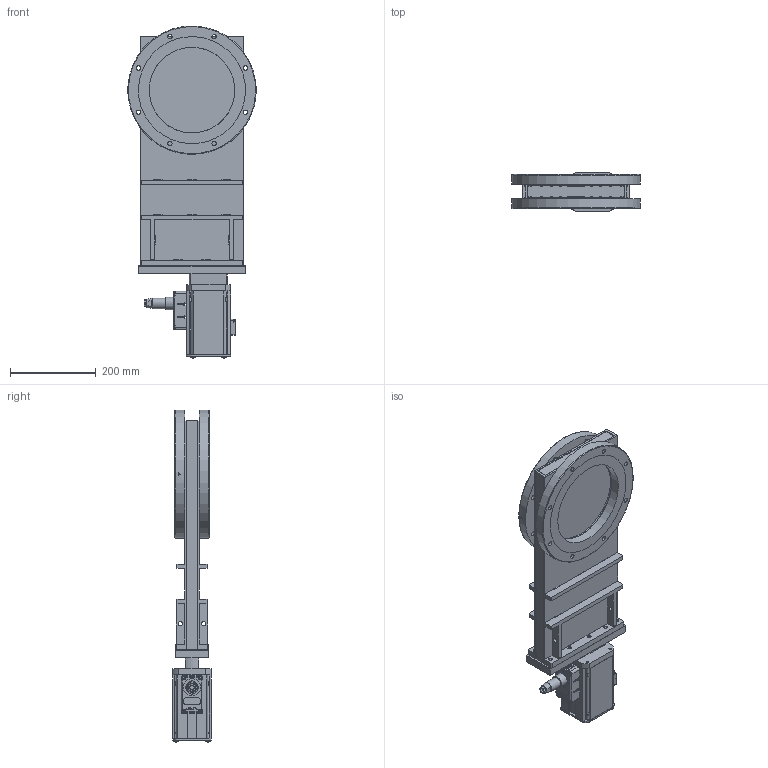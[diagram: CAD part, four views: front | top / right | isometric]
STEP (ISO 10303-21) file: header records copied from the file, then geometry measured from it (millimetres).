
FILE_DESCRIPTION(/* description */ (''),/* implementation_level */ '2;1');
FILE_NAME(/* name */ '1001302212_203.stp',/* time_stamp */ '2017-07-11T14:44:24+02:00',/* author */ (''),/* organization */ (''),/* preprocessor_version */ 'ST-DEVELOPER v15',/* originating_system */ 'SIEMENS PLM Software NX 9.0',/* authorisation */ '');
FILE_SCHEMA (('AP203_CONFIGURATION_CONTROLLED_3D_DESIGN_OF_MECHANICAL_PARTS_AND_ASSEMBLIES_MIM_LF { 1 0 10303 403 2 1 2}'));
Length unit declared in the file: millimetre
Products named in the file (44): n-6197-034.1; n-7100-007.2; 395614; 94220-01.1; 94224-01.2; 834044_36363ID; 834044_36385ID; 834044_36384ID; 834044_36383ID; 834046_36382ID; 834046_36381ID; 834046_36380ID; 834046_36379ID; 834014_36377ID; 834014_36376ID; 834006_36374ID; 834001_36372ID; 834001_36371ID; 833986_36369ID; 833986_36365ID; n-6024-526; N-7100-014_2.1; 94828-01.1; N-7100-012_3.1; N-6024-571.1; 85949-01.1; 67114-01.1; 78608-01.1_36387ID; 78608-01.1_36388ID; n-6099-511.1; 65313-01.1; 570870; 74628-01.3; n-6024-548.1; 70973-01.1; n-8504-002; 69130-01.2; 778871; 94827-r1.1; 395615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
Assembly tree (64 placements, depth 4):
  901844
    78607-r1
      834047
        833986_36365ID
        833986_36369ID
        834001_36371ID
        834001_36372ID
        834006_36374ID
        834014_36376ID
        834014_36377ID
        834046_36379ID
        834046_36380ID
        834046_36381ID
        834046_36382ID
        834044_36383ID
        834044_36384ID
        834044_36385ID
        834044_36363ID
      n-6099-511.1  x2
      78608-01.1_36388ID
      78608-01.1_36387ID
    94237-r1.2
      67114-01.1  x4
      85949-01.1
      N-6024-571.1  x4
      395615
        94224-01.2
        94220-01.1
        395614
        n-7100-007.2  x2
        n-6197-034.1
    778871  x10
    69130-01.2
    n-8504-002
    70973-01.1
    n-6024-548.1  x4
    74628-01.3
    570870
    65313-01.1
    94827-r1.1
      N-7100-012_3.1
      94828-01.1
      N-7100-014_2.1
      n-6024-526  x2
Bounding box: 300 x 90 x 775.7 mm (x, y, z)
Volume: 5128682.6 mm3; surface area: 1194362.4 mm2
Topology: 66 solids, 78 shells, 2571 faces, 6491 edges, 4264 vertices
Faces by surface type: plane 1647, cylinder 529, extrusion 195, torus 107, cone 75, sphere 10, bspline 8
Full cylindrical faces by diameter (mm): 0.7 x1, 0.725 x1, 1.5 x6, 1.66 x7, 2 x3, 2.125 x1, 2.5 x10, 2.65 x1, 3 x6, 3.3 x6, 4 x8, 4.05 x4, 4.2 x2, 4.35 x2, 4.4 x4, 4.45 x4, 4.5 x2, 4.625 x2, 5 x10, 5.4 x2, 5.8 x1, 5.9 x1, 6 x15, 6.6 x4, 6.85 x4, 7.05 x3, 7.5 x4, 7.982 x4, 8 x6, 8.36 x10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
Entity records: 78849 total; most frequent: CARTESIAN_POINT 20727, ORIENTED_EDGE 10542, DIRECTION 9549, EDGE_CURVE 5271, VERTEX_POINT 3639, VECTOR 3291, AXIS2_PLACEMENT_3D 3129, LINE 3096
